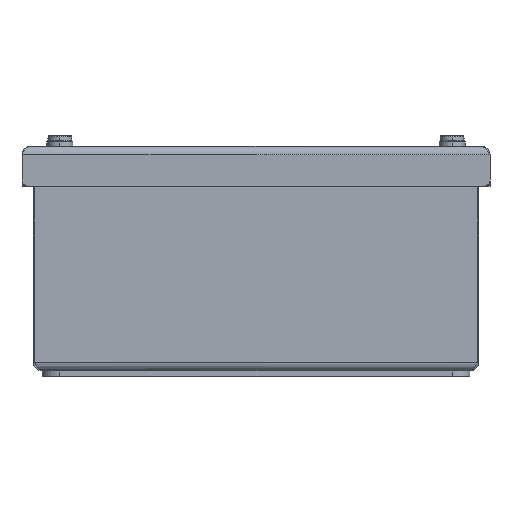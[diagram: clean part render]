
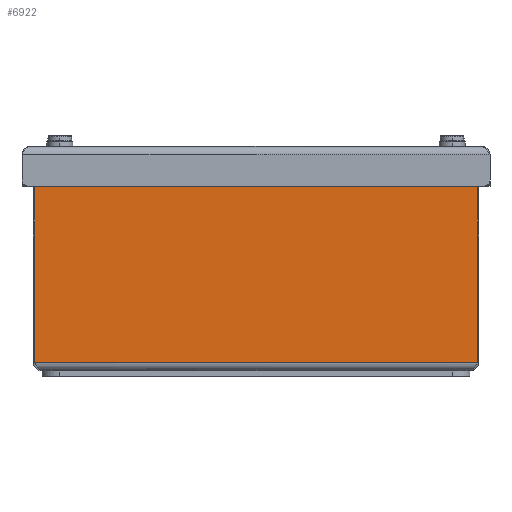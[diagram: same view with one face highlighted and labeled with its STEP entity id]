
A CAD part, left-side view. The second image highlights one B-rep face of the part: STEP entity #6922.
In plain terms, the highlighted planar face has unit normal (-1, 0, 0).
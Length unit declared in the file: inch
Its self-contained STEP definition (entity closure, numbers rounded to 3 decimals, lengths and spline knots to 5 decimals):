
#33=DIRECTION('',(0.,-1.,0.));
#34=VECTOR('',#33,6.206);
#35=CARTESIAN_POINT('',(0.,6.228,0.12));
#36=LINE('',#35,#34);
#163=CARTESIAN_POINT('',(0.,6.22,2.918));
#164=DIRECTION('',(-1.,0.,0.));
#165=DIRECTION('',(0.,0.,1.));
#166=AXIS2_PLACEMENT_3D('',#163,#164,#165);
#171=DIRECTION('',(0.,-1.,0.));
#172=VECTOR('',#171,0.75125);
#173=CARTESIAN_POINT('',(0.,6.22,2.926));
#174=LINE('',#173,#172);
#178=DIRECTION('',(0.,0.,1.));
#179=VECTOR('',#178,0.038);
#180=CARTESIAN_POINT('',(0.,5.46875,2.888));
#181=LINE('',#180,#179);
#185=DIRECTION('',(0.,0.,1.));
#186=VECTOR('',#185,0.038);
#187=CARTESIAN_POINT('',(0.,0.78125,2.888));
#188=LINE('',#187,#186);
#192=DIRECTION('',(0.,1.,0.));
#193=VECTOR('',#192,0.75125);
#194=CARTESIAN_POINT('',(0.,0.03,2.926));
#195=LINE('',#194,#193);
#199=CARTESIAN_POINT('',(0.,0.03,2.918));
#200=DIRECTION('',(-1.,0.,0.));
#201=DIRECTION('',(0.,-1.,0.));
#202=AXIS2_PLACEMENT_3D('',#199,#200,#201);
#207=DIRECTION('',(0.,0.,-1.));
#208=VECTOR('',#207,2.798);
#209=CARTESIAN_POINT('',(0.,0.022,2.918));
#210=LINE('',#209,#208);
#214=DIRECTION('',(0.,0.,1.));
#215=VECTOR('',#214,2.798);
#216=CARTESIAN_POINT('',(0.,6.228,0.12));
#217=LINE('',#216,#215);
#1259=DIRECTION('',(0.,-1.,0.));
#1260=VECTOR('',#1259,4.6875);
#1261=CARTESIAN_POINT('',(0.,5.46875,2.888));
#1262=LINE('',#1261,#1260);
#6043=CARTESIAN_POINT('',(0.,6.228,0.12));
#6045=VERTEX_POINT('',#6043);
#6047=CARTESIAN_POINT('',(0.,0.022,0.12));
#6049=VERTEX_POINT('',#6047);
#6083=CARTESIAN_POINT('',(0.,0.78125,2.888));
#6084=CARTESIAN_POINT('',(0.,0.78125,2.926));
#6085=VERTEX_POINT('',#6083);
#6086=VERTEX_POINT('',#6084);
#6091=CARTESIAN_POINT('',(0.,5.46875,2.888));
#6092=CARTESIAN_POINT('',(0.,5.46875,2.926));
#6093=VERTEX_POINT('',#6091);
#6094=VERTEX_POINT('',#6092);
#6263=CARTESIAN_POINT('',(0.,6.22,2.926));
#6264=VERTEX_POINT('',#6263);
#6265=CARTESIAN_POINT('',(0.,6.228,2.918));
#6266=VERTEX_POINT('',#6265);
#6267=CARTESIAN_POINT('',(0.,0.022,2.918));
#6268=CARTESIAN_POINT('',(0.,0.03,2.926));
#6269=VERTEX_POINT('',#6267);
#6270=VERTEX_POINT('',#6268);
#6896=CARTESIAN_POINT('',(0.,6.25,0.));
#6897=DIRECTION('',(-1.,0.,0.));
#6898=DIRECTION('',(0.,-1.,0.));
#6899=AXIS2_PLACEMENT_3D('',#6896,#6897,#6898);
#6900=PLANE('',#6899);
#6902=ORIENTED_EDGE('',*,*,#6901,.F.);
#6904=ORIENTED_EDGE('',*,*,#6903,.T.);
#6906=ORIENTED_EDGE('',*,*,#6905,.F.);
#6908=ORIENTED_EDGE('',*,*,#6907,.T.);
#6910=ORIENTED_EDGE('',*,*,#6909,.T.);
#6912=ORIENTED_EDGE('',*,*,#6911,.F.);
#6914=ORIENTED_EDGE('',*,*,#6913,.F.);
#6916=ORIENTED_EDGE('',*,*,#6915,.T.);
#6917=ORIENTED_EDGE('',*,*,#6886,.F.);
#6919=ORIENTED_EDGE('',*,*,#6918,.T.);
#6920=EDGE_LOOP('',(#6902,#6904,#6906,#6908,#6910,#6912,#6914,#6916,#6917,
#6919));
#6921=FACE_OUTER_BOUND('',#6920,.F.);
#167=CIRCLE('',#166,0.008);
#203=CIRCLE('',#202,0.008);
#6886=EDGE_CURVE('',#6045,#6049,#36,.T.);
#6901=EDGE_CURVE('',#6264,#6266,#167,.T.);
#6903=EDGE_CURVE('',#6264,#6094,#174,.T.);
#6905=EDGE_CURVE('',#6093,#6094,#181,.T.);
#6907=EDGE_CURVE('',#6093,#6085,#1262,.T.);
#6909=EDGE_CURVE('',#6085,#6086,#188,.T.);
#6911=EDGE_CURVE('',#6270,#6086,#195,.T.);
#6913=EDGE_CURVE('',#6269,#6270,#203,.T.);
#6915=EDGE_CURVE('',#6269,#6049,#210,.T.);
#6918=EDGE_CURVE('',#6045,#6266,#217,.T.);
#6922=ADVANCED_FACE('',(#6921),#6900,.T.);
